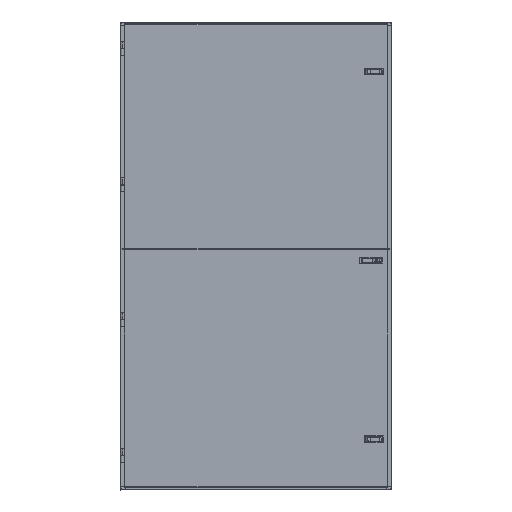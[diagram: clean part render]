
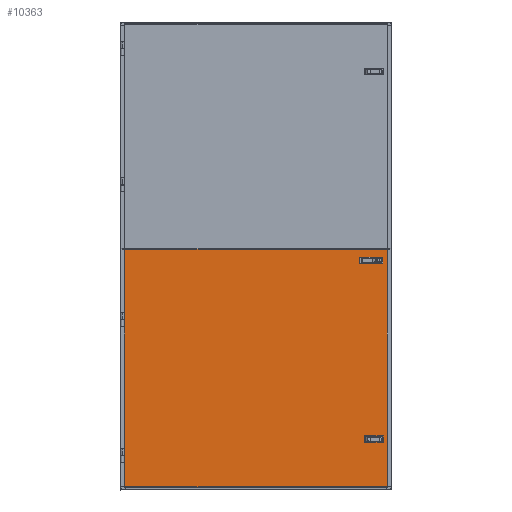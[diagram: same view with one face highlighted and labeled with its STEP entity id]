
A CAD part, top view. The second image highlights one B-rep face of the part: STEP entity #10363.
In plain terms, the highlighted planar face has unit normal (0, 0, -1).
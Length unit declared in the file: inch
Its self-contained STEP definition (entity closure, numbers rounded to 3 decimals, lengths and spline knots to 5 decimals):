
#560 = LINE ( 'NONE', #74723, #68146 ) ;
#1570 = VECTOR ( 'NONE', #12464, 39.37008 ) ;
#1934 = CARTESIAN_POINT ( 'NONE',  ( 53.16186, 8.99551, 0. ) ) ;
#3582 = CARTESIAN_POINT ( 'NONE',  ( 54.15884, 1.08038, 0. ) ) ;
#4442 = VERTEX_POINT ( 'NONE', #75845 ) ;
#4819 = EDGE_CURVE ( 'NONE', #80458, #15437, #10853, .T. ) ;
#5748 = CARTESIAN_POINT ( 'NONE',  ( 50.10186, 8.99551, 0. ) ) ;
#6041 = CARTESIAN_POINT ( 'NONE',  ( 53.16186, 40.49551, 0. ) ) ;
#6240 = VECTOR ( 'NONE', #33560, 39.37008 ) ;
#6728 = EDGE_CURVE ( 'NONE', #7561, #4442, #59190, .T. ) ;
#7561 = VERTEX_POINT ( 'NONE', #41973 ) ;
#10363 = ADVANCED_FACE ( 'NONE', ( #46710, #25923, #61609 ), #45946, .F. ) ;
#10853 = LINE ( 'NONE', #3582, #57549 ) ;
#11176 = ORIENTED_EDGE ( 'NONE', *, *, #6728, .F. ) ;
#11185 = CARTESIAN_POINT ( 'NONE',  ( 53.16186, 9.99551, 0. ) ) ;
#11509 = CARTESIAN_POINT ( 'NONE',  ( 53.16186, 41.49551, 0. ) ) ;
#11916 = CARTESIAN_POINT ( 'NONE',  ( 50.10186, 8.99551, 0. ) ) ;
#12464 = DIRECTION ( 'NONE',  ( -1., 0., 0. ) ) ;
#13510 = EDGE_CURVE ( 'NONE', #75192, #7561, #53107, .T. ) ;
#13581 = ORIENTED_EDGE ( 'NONE', *, *, #14323, .F. ) ;
#14323 = EDGE_CURVE ( 'NONE', #80553, #80458, #73778, .T. ) ;
#14357 = VECTOR ( 'NONE', #51958, 39.37008 ) ;
#15237 = VECTOR ( 'NONE', #61149, 39.37008 ) ;
#15437 = VERTEX_POINT ( 'NONE', #50875 ) ;
#19397 = VECTOR ( 'NONE', #62657, 39.37008 ) ;
#20760 = DIRECTION ( 'NONE',  ( 1., 0., 0. ) ) ;
#21801 = CARTESIAN_POINT ( 'NONE',  ( 53.16186, 8.99551, 0. ) ) ;
#22961 = LINE ( 'NONE', #11509, #37775 ) ;
#23035 = EDGE_CURVE ( 'NONE', #53731, #76120, #22961, .T. ) ;
#23374 = EDGE_CURVE ( 'NONE', #36278, #75192, #81499, .T. ) ;
#24530 = ORIENTED_EDGE ( 'NONE', *, *, #46763, .F. ) ;
#25684 = ORIENTED_EDGE ( 'NONE', *, *, #13510, .F. ) ;
#25923 = FACE_BOUND ( 'NONE', #79199, .T. ) ;
#28980 = VERTEX_POINT ( 'NONE', #53125 ) ;
#29714 = CARTESIAN_POINT ( 'NONE',  ( 49.21186, 40.49551, 0. ) ) ;
#30347 = DIRECTION ( 'NONE',  ( 1., 0., 0. ) ) ;
#30692 = ORIENTED_EDGE ( 'NONE', *, *, #23374, .F. ) ;
#30798 = VECTOR ( 'NONE', #33641, 39.37008 ) ;
#31466 = ORIENTED_EDGE ( 'NONE', *, *, #67918, .F. ) ;
#33560 = DIRECTION ( 'NONE',  ( 0., -1., 0. ) ) ;
#33641 = DIRECTION ( 'NONE',  ( -1., 0., 0. ) ) ;
#35837 = ORIENTED_EDGE ( 'NONE', *, *, #23035, .F. ) ;
#36278 = VERTEX_POINT ( 'NONE', #21801 ) ;
#37404 = LINE ( 'NONE', #6041, #1570 ) ;
#37775 = VECTOR ( 'NONE', #62287, 39.37008 ) ;
#37875 = EDGE_CURVE ( 'NONE', #44556, #80553, #53978, .T. ) ;
#38138 = EDGE_CURVE ( 'NONE', #4442, #36278, #50961, .T. ) ;
#38204 = VERTEX_POINT ( 'NONE', #74451 ) ;
#39546 = AXIS2_PLACEMENT_3D ( 'NONE', #52360, #39613, #20760 ) ;
#39613 = DIRECTION ( 'NONE',  ( 0., 0., 1. ) ) ;
#39954 = CARTESIAN_POINT ( 'NONE',  ( 7.77491, 0.99551, 0. ) ) ;
#40087 = EDGE_CURVE ( 'NONE', #28980, #53731, #50561, .T. ) ;
#41973 = CARTESIAN_POINT ( 'NONE',  ( 50.10186, 9.99551, 0. ) ) ;
#42831 = DIRECTION ( 'NONE',  ( 0., 1., 0. ) ) ;
#43110 = ORIENTED_EDGE ( 'NONE', *, *, #48100, .F. ) ;
#44556 = VERTEX_POINT ( 'NONE', #49461 ) ;
#45571 = CARTESIAN_POINT ( 'NONE',  ( 53.16186, 40.49551, 0. ) ) ;
#45946 = PLANE ( 'NONE',  #39546 ) ;
#46527 = ORIENTED_EDGE ( 'NONE', *, *, #4819, .F. ) ;
#46710 = FACE_OUTER_BOUND ( 'NONE', #48407, .T. ) ;
#46763 = EDGE_CURVE ( 'NONE', #38204, #28980, #37404, .T. ) ;
#47472 = EDGE_LOOP ( 'NONE', ( #11176, #25684, #30692, #53156 ) ) ;
#48100 = EDGE_CURVE ( 'NONE', #76120, #38204, #62966, .T. ) ;
#48180 = CARTESIAN_POINT ( 'NONE',  ( 7.77491, 43.03563, 0. ) ) ;
#48390 = CARTESIAN_POINT ( 'NONE',  ( 53.16186, 8.99551, 0. ) ) ;
#48407 = EDGE_LOOP ( 'NONE', ( #31466, #46527, #13581, #65237 ) ) ;
#48560 = VECTOR ( 'NONE', #74063, 39.37008 ) ;
#49461 = CARTESIAN_POINT ( 'NONE',  ( 54.07396, 43.03563, 0. ) ) ;
#50561 = LINE ( 'NONE', #29714, #48560 ) ;
#50875 = CARTESIAN_POINT ( 'NONE',  ( 54.07396, 1.08038, 0. ) ) ;
#50961 = LINE ( 'NONE', #48390, #15237 ) ;
#51544 = CARTESIAN_POINT ( 'NONE',  ( 7.77491, 1.08038, 0. ) ) ;
#51780 = CARTESIAN_POINT ( 'NONE',  ( 54.15884, 43.03563, 0. ) ) ;
#51958 = DIRECTION ( 'NONE',  ( 0., -1., 0. ) ) ;
#51991 = VECTOR ( 'NONE', #70631, 39.37008 ) ;
#52360 = CARTESIAN_POINT ( 'NONE',  ( 54.15884, 0.99551, 0. ) ) ;
#53107 = LINE ( 'NONE', #5748, #19397 ) ;
#53125 = CARTESIAN_POINT ( 'NONE',  ( 49.21186, 40.49551, 0. ) ) ;
#53156 = ORIENTED_EDGE ( 'NONE', *, *, #38138, .F. ) ;
#53731 = VERTEX_POINT ( 'NONE', #70744 ) ;
#53978 = LINE ( 'NONE', #51780, #51991 ) ;
#57549 = VECTOR ( 'NONE', #67166, 39.37008 ) ;
#59190 = LINE ( 'NONE', #11185, #70121 ) ;
#61149 = DIRECTION ( 'NONE',  ( 0., -1., 0. ) ) ;
#61609 = FACE_BOUND ( 'NONE', #47472, .T. ) ;
#62287 = DIRECTION ( 'NONE',  ( 1., 0., 0. ) ) ;
#62657 = DIRECTION ( 'NONE',  ( 0., 1., 0. ) ) ;
#62966 = LINE ( 'NONE', #45571, #14357 ) ;
#65237 = ORIENTED_EDGE ( 'NONE', *, *, #37875, .F. ) ;
#67166 = DIRECTION ( 'NONE',  ( 1., 0., 0. ) ) ;
#67918 = EDGE_CURVE ( 'NONE', #15437, #44556, #560, .T. ) ;
#68146 = VECTOR ( 'NONE', #42831, 39.37008 ) ;
#68834 = ORIENTED_EDGE ( 'NONE', *, *, #40087, .F. ) ;
#70121 = VECTOR ( 'NONE', #30347, 39.37008 ) ;
#70631 = DIRECTION ( 'NONE',  ( -1., 0., 0. ) ) ;
#70744 = CARTESIAN_POINT ( 'NONE',  ( 49.21186, 41.49551, 0. ) ) ;
#73778 = LINE ( 'NONE', #39954, #6240 ) ;
#74063 = DIRECTION ( 'NONE',  ( 0., 1., 0. ) ) ;
#74451 = CARTESIAN_POINT ( 'NONE',  ( 53.16186, 40.49551, 0. ) ) ;
#74723 = CARTESIAN_POINT ( 'NONE',  ( 54.07396, 0.99551, 0. ) ) ;
#75192 = VERTEX_POINT ( 'NONE', #11916 ) ;
#75845 = CARTESIAN_POINT ( 'NONE',  ( 53.16186, 9.99551, 0. ) ) ;
#76120 = VERTEX_POINT ( 'NONE', #78112 ) ;
#78112 = CARTESIAN_POINT ( 'NONE',  ( 53.16186, 41.49551, 0. ) ) ;
#79199 = EDGE_LOOP ( 'NONE', ( #35837, #68834, #24530, #43110 ) ) ;
#80458 = VERTEX_POINT ( 'NONE', #51544 ) ;
#80553 = VERTEX_POINT ( 'NONE', #48180 ) ;
#81499 = LINE ( 'NONE', #1934, #30798 ) ;
